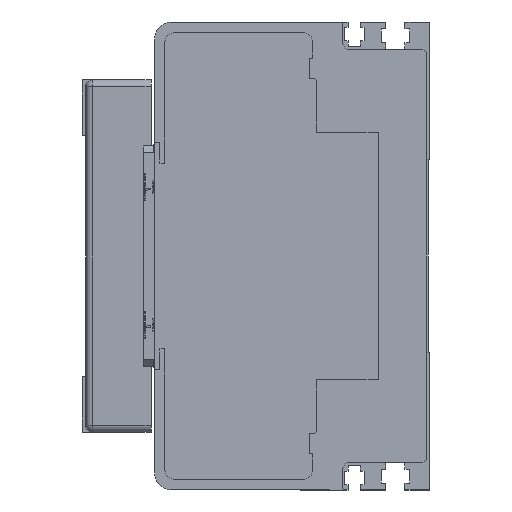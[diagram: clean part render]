
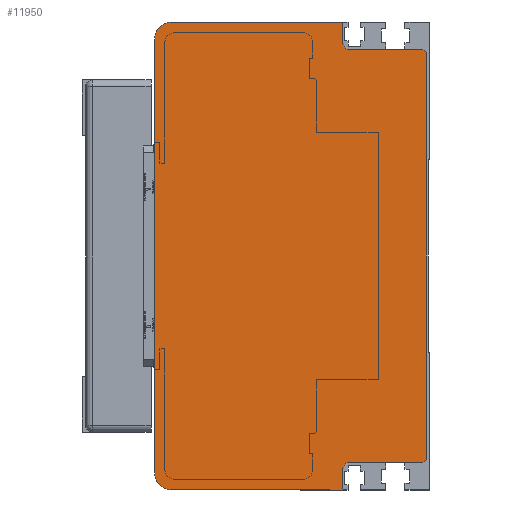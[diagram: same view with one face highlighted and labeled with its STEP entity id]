
A CAD part, left-side view. The second image highlights one B-rep face of the part: STEP entity #11950.
In plain terms, the highlighted planar face has unit normal (-1, 0, 0) as drawn and (0, 0, -1) by its records, which use the part's own axes.
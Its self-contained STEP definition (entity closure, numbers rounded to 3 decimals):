
#969=FACE_OUTER_BOUND('',#1696,.T.);
#1696=EDGE_LOOP('',(#8315,#8316,#8317,#8318,#8319,#8320,#8321,#8322,#8323,
#8324,#8325,#8326,#8327,#8328));
#2480=CIRCLE('',#12818,2.);
#2481=CIRCLE('',#12819,5.);
#2482=CIRCLE('',#12820,5.);
#2483=CIRCLE('',#12821,2.);
#2758=LINE('',#17023,#3901);
#2759=LINE('',#17025,#3902);
#2760=LINE('',#17027,#3903);
#2761=LINE('',#17029,#3904);
#2762=LINE('',#17033,#3905);
#2763=LINE('',#17035,#3906);
#2764=LINE('',#17039,#3907);
#2765=LINE('',#17043,#3908);
#2766=LINE('',#17045,#3909);
#2767=LINE('',#17048,#3910);
#3901=VECTOR('',#14037,1.414);
#3902=VECTOR('',#14038,118.);
#3903=VECTOR('',#14039,1.414);
#3904=VECTOR('',#14040,21.3);
#3905=VECTOR('',#14043,6.);
#3906=VECTOR('',#14044,49.7);
#3907=VECTOR('',#14047,126.);
#3908=VECTOR('',#14050,49.7);
#3909=VECTOR('',#14051,6.);
#3910=VECTOR('',#14054,21.3);
#5118=VERTEX_POINT('',#17021);
#5119=VERTEX_POINT('',#17022);
#5120=VERTEX_POINT('',#17024);
#5121=VERTEX_POINT('',#17026);
#5122=VERTEX_POINT('',#17028);
#5123=VERTEX_POINT('',#17030);
#5124=VERTEX_POINT('',#17032);
#5125=VERTEX_POINT('',#17034);
#5126=VERTEX_POINT('',#17036);
#5127=VERTEX_POINT('',#17038);
#5128=VERTEX_POINT('',#17040);
#5129=VERTEX_POINT('',#17042);
#5130=VERTEX_POINT('',#17044);
#5131=VERTEX_POINT('',#17046);
#6372=EDGE_CURVE('',#5118,#5119,#2758,.T.);
#6373=EDGE_CURVE('',#5118,#5120,#2759,.T.);
#6374=EDGE_CURVE('',#5121,#5120,#2760,.T.);
#6375=EDGE_CURVE('',#5121,#5122,#2761,.T.);
#6376=EDGE_CURVE('',#5123,#5122,#2480,.T.);
#6377=EDGE_CURVE('',#5123,#5124,#2762,.T.);
#6378=EDGE_CURVE('',#5124,#5125,#2763,.T.);
#6379=EDGE_CURVE('',#5125,#5126,#2481,.T.);
#6380=EDGE_CURVE('',#5126,#5127,#2764,.T.);
#6381=EDGE_CURVE('',#5127,#5128,#2482,.T.);
#6382=EDGE_CURVE('',#5128,#5129,#2765,.T.);
#6383=EDGE_CURVE('',#5129,#5130,#2766,.T.);
#6384=EDGE_CURVE('',#5131,#5130,#2483,.T.);
#6385=EDGE_CURVE('',#5131,#5119,#2767,.T.);
#8315=ORIENTED_EDGE('',*,*,#6372,.F.);
#8316=ORIENTED_EDGE('',*,*,#6373,.T.);
#8317=ORIENTED_EDGE('',*,*,#6374,.F.);
#8318=ORIENTED_EDGE('',*,*,#6375,.T.);
#8319=ORIENTED_EDGE('',*,*,#6376,.F.);
#8320=ORIENTED_EDGE('',*,*,#6377,.T.);
#8321=ORIENTED_EDGE('',*,*,#6378,.T.);
#8322=ORIENTED_EDGE('',*,*,#6379,.T.);
#8323=ORIENTED_EDGE('',*,*,#6380,.T.);
#8324=ORIENTED_EDGE('',*,*,#6381,.T.);
#8325=ORIENTED_EDGE('',*,*,#6382,.T.);
#8326=ORIENTED_EDGE('',*,*,#6383,.T.);
#8327=ORIENTED_EDGE('',*,*,#6384,.F.);
#8328=ORIENTED_EDGE('',*,*,#6385,.T.);
#11360=PLANE('',#12817);
#11950=ADVANCED_FACE('',(#969),#11360,.T.);
#12817=AXIS2_PLACEMENT_3D('',#17020,#14035,#14036);
#12818=AXIS2_PLACEMENT_3D('',#17031,#14041,#14042);
#12819=AXIS2_PLACEMENT_3D('',#17037,#14045,#14046);
#12820=AXIS2_PLACEMENT_3D('',#17041,#14048,#14049);
#12821=AXIS2_PLACEMENT_3D('',#17047,#14052,#14053);
#14035=DIRECTION('center_axis',(0.,0.,-1.));
#14036=DIRECTION('ref_axis',(0.,-1.,0.));
#14037=DIRECTION('',(0.707,0.707,0.));
#14038=DIRECTION('',(-1.,0.,0.));
#14039=DIRECTION('',(0.707,-0.707,0.));
#14040=DIRECTION('',(0.,1.,0.));
#14041=DIRECTION('center_axis',(0.,0.,-1.));
#14042=DIRECTION('ref_axis',(0.707,0.707,0.));
#14043=DIRECTION('',(-1.,0.,0.));
#14044=DIRECTION('',(0.,1.,0.));
#14045=DIRECTION('center_axis',(0.,0.,-1.));
#14046=DIRECTION('ref_axis',(-1.,0.,0.));
#14047=DIRECTION('',(1.,0.,0.));
#14048=DIRECTION('center_axis',(0.,0.,-1.));
#14049=DIRECTION('ref_axis',(0.,1.,0.));
#14050=DIRECTION('',(0.,-1.,0.));
#14051=DIRECTION('',(-1.,0.,0.));
#14052=DIRECTION('center_axis',(0.,0.,-1.));
#14053=DIRECTION('ref_axis',(-0.707,0.707,0.));
#14054=DIRECTION('',(0.,-1.,0.));
#17020=CARTESIAN_POINT('Origin',(-29.,-60.,-900.));
#17021=CARTESIAN_POINT('',(66.,-74.,-900.));
#17022=CARTESIAN_POINT('',(67.,-73.,-900.));
#17023=CARTESIAN_POINT('',(46.,-94.,-900.));
#17024=CARTESIAN_POINT('',(-52.,-74.,-900.));
#17025=CARTESIAN_POINT('',(-11.,-74.,-900.));
#17026=CARTESIAN_POINT('',(-53.,-73.,-900.));
#17027=CARTESIAN_POINT('',(-50.,-76.,-900.));
#17028=CARTESIAN_POINT('',(-53.,-51.7,-900.));
#17029=CARTESIAN_POINT('',(-53.,-67.,-900.));
#17030=CARTESIAN_POINT('',(-55.,-49.7,-900.));
#17031=CARTESIAN_POINT('Origin',(-55.,-51.7,-900.));
#17032=CARTESIAN_POINT('',(-61.,-49.7,-900.));
#17033=CARTESIAN_POINT('',(-41.,-49.7,-900.));
#17034=CARTESIAN_POINT('',(-61.,0.,-900.));
#17035=CARTESIAN_POINT('',(-61.,-51.25,-900.));
#17036=CARTESIAN_POINT('',(-56.,5.,-900.));
#17037=CARTESIAN_POINT('Origin',(-56.,0.,
-900.));
#17038=CARTESIAN_POINT('',(70.,5.,-900.));
#17039=CARTESIAN_POINT('',(-56.,5.,-900.));
#17040=CARTESIAN_POINT('',(75.,0.,-900.));
#17041=CARTESIAN_POINT('Origin',(70.,0.,
-900.));
#17042=CARTESIAN_POINT('',(75.,-49.7,-900.));
#17043=CARTESIAN_POINT('',(75.,0.,-900.));
#17044=CARTESIAN_POINT('',(69.,-49.7,-900.));
#17045=CARTESIAN_POINT('',(19.,-49.7,-900.));
#17046=CARTESIAN_POINT('',(67.,-51.7,-900.));
#17047=CARTESIAN_POINT('Origin',(69.,-51.7,-900.));
#17048=CARTESIAN_POINT('',(67.,-67.,-900.));
